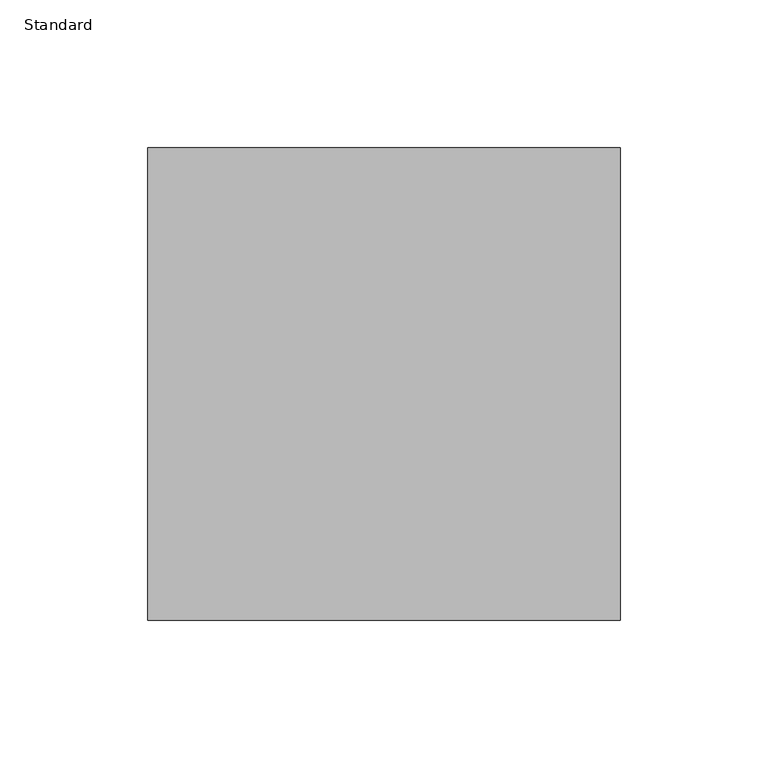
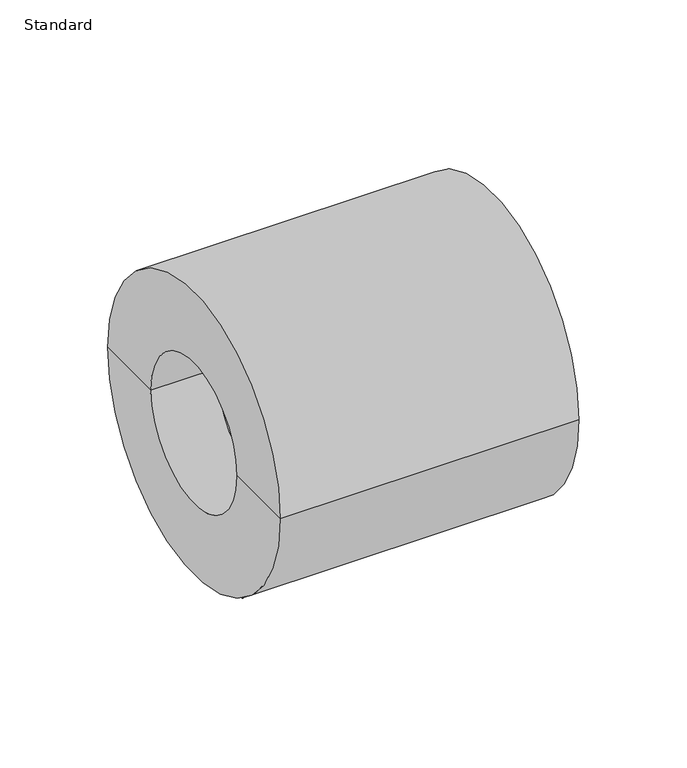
"""IFC4 building model written with IfcOpenShell, lengths in millimetres: pipe fitting geometry, Durapipe_PipeFitting_PVC_ReducingBush : Standard."""

from ifc_helpers import new_model, si_unit, frame, origin, place, context, project, spatial, polyline, circle_curve, source, transform, mapped, element, save
from ifc_brep_helpers import plane_surface, cylinder_surface, revolved_surface, advanced_brep


def standard_d8c47282(model_context):
    return source(origin(), model_context, "Body", "AdvancedBrep", [
        advanced_brep(
        [(-35.0, -40.0, 0.0), (-35.0, 40.0, 0.0), (-35.0, 80.0, 0.0), (-35.0, -80.0, 0.0), (0.0, -40.0, 0.0), (0.0, 40.0, 0.0), (0.0, -45.0, 0.0), (0.0, 45.0, 0.0), (125.0, -45.0, 0.0), (125.0, 45.0, 0.0), (125.0, -80.0, 0.0), (125.0, 80.0, 0.0)],
        [
            (0, 1, circle_curve(frame((-35.0, 0.0, 0.0), z_axis=(1.0, 0.0, 0.0), x_axis=(0.0, 1.0, 0.0)), 40.0)),
            (1, 2),
            (2, 3, circle_curve(frame((-35.0, 0.0, 0.0), z_axis=(-1.0, 0.0, 0.0), x_axis=(0.0, 1.0, 0.0)), 80.0)),
            (3, 0),
            (1, 0, circle_curve(frame((-35.0, 0.0, 0.0), z_axis=(1.0, 0.0, 0.0), x_axis=(0.0, 1.0, 0.0)), 40.0)),
            (3, 2, circle_curve(frame((-35.0, 0.0, 0.0), z_axis=(-1.0, 0.0, 0.0), x_axis=(0.0, 1.0, 0.0)), 80.0)),
            (4, 5, circle_curve(frame((0.0, 0.0, 0.0), z_axis=(1.0, 0.0, 0.0), x_axis=(0.0, 1.0, 0.0)), 40.0)),
            (5, 1),
            (0, 4),
            (5, 4, circle_curve(frame((0.0, 0.0, 0.0), z_axis=(1.0, 0.0, 0.0), x_axis=(0.0, 1.0, 0.0)), 40.0)),
            (6, 7, circle_curve(frame((0.0, 0.0, 0.0), z_axis=(1.0, 0.0, 0.0), x_axis=(0.0, 1.0, 0.0)), 45.0)),
            (7, 5),
            (4, 6),
            (7, 6, circle_curve(frame((0.0, 0.0, 0.0), z_axis=(1.0, 0.0, 0.0), x_axis=(0.0, 1.0, 0.0)), 45.0)),
            (8, 9, circle_curve(frame((125.0, 0.0, 0.0), z_axis=(1.0, 0.0, 0.0), x_axis=(0.0, 1.0, 0.0)), 45.0)),
            (9, 7),
            (6, 8),
            (9, 8, circle_curve(frame((125.0, 0.0, 0.0), z_axis=(1.0, 0.0, 0.0), x_axis=(0.0, 1.0, 0.0)), 45.0)),
            (10, 11, circle_curve(frame((125.0, 0.0, 0.0), z_axis=(1.0, 0.0, 0.0), x_axis=(0.0, 1.0, 0.0)), 80.0)),
            (11, 9),
            (8, 10),
            (11, 10, circle_curve(frame((125.0, 0.0, 0.0), z_axis=(1.0, 0.0, 0.0), x_axis=(0.0, 1.0, 0.0)), 80.0)),
            (2, 11),
            (10, 3),
        ],
        [
            plane_surface(frame((-35.0, 0.0, 0.0), z_axis=(-1.0, 0.0, 0.0), x_axis=(0.0, 1.0, 0.0))),
            revolved_surface(polyline([(-35.0, 40.0, 0.0), (0.0, 40.0, 0.0)]), (2111.0, 0.0, 0.0), (-1.0, 0.0, 0.0)),
            plane_surface(frame((0.0, 0.0, 0.0), z_axis=(1.0, 0.0, 0.0), x_axis=(0.0, 1.0, 0.0))),
            revolved_surface(polyline([(0.0, 45.0, 0.0), (125.0, 45.0, 0.0)]), (2111.0, 0.0, 0.0), (-1.0, 0.0, 0.0)),
            plane_surface(frame((125.0, 0.0, 0.0), z_axis=(1.0, 0.0, 0.0), x_axis=(0.0, 1.0, 0.0))),
            cylinder_surface(frame((2111.0, 0.0, 0.0), z_axis=(-1.0, 0.0, 0.0), x_axis=(0.0, 1.0, 0.0)), 80.0),
        ],
        [
            (0, [[1, 2, 3, 4]]),
            (0, [[5, -4, 6, -2]]),
            (1, [[7, 8, -1, 9]]),
            (1, [[10, -9, -5, -8]]),
            (2, [[11, 12, -7, 13]]),
            (2, [[14, -13, -10, -12]]),
            (3, [[15, 16, -11, 17]]),
            (3, [[18, -17, -14, -16]]),
            (4, [[19, 20, -15, 21]]),
            (4, [[22, -21, -18, -20]]),
            (5, [[-3, 23, -19, 24]]),
            (5, [[-6, -24, -22, -23]]),
        ],
    ),
    ])


if __name__ == "__main__":
    model = new_model("IFC4")
    model_context = context("Model", 3, world=origin())
    ifc_project = project(units=[si_unit("LENGTHUNIT", "METRE", prefix="MILLI")], contexts=[model_context])
    site = spatial("IfcSite", under=ifc_project)
    building = spatial("IfcBuilding", under=site)
    placement = place(None, origin())
    standard_shape = standard_d8c47282(model_context)
    element("IfcPipeFitting", 1, ObjectType="Durapipe_PipeFitting_PVC_ReducingBush : Standard", at=placement, inside=building, context=model_context, shape_type="MappedRepresentation", body=[
        mapped(standard_shape, transform((0.0, 0.0, 0.0), x_axis=(1.0, 0.0, 0.0), y_axis=(0.0, 1.0, 0.0), z_axis=(0.0, 0.0, 1.0))),
    ])
    save(model, "model.ifc")
